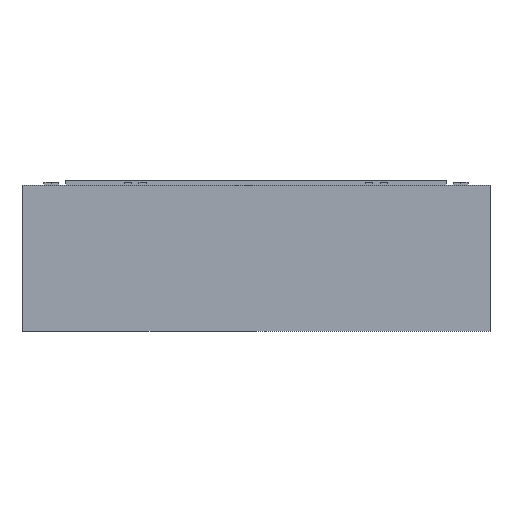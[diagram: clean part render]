
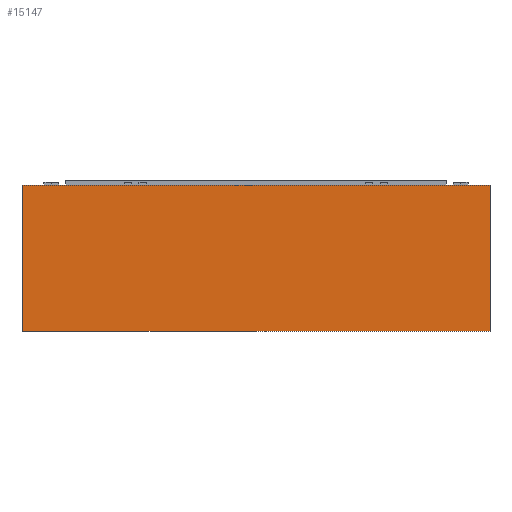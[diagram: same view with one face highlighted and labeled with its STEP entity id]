
A CAD part, left-side view. The second image highlights one B-rep face of the part: STEP entity #15147.
In plain terms, the highlighted planar face has unit normal (-1, 0, 0).
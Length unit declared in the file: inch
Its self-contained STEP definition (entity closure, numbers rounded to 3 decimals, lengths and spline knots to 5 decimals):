
#820=FACE_OUTER_BOUND('',#1630,.T.);
#1630=EDGE_LOOP('',(#12966,#12967,#12968,#12969));
#2142=LINE('',#20415,#4145);
#3633=LINE('',#23466,#5636);
#3634=LINE('',#23469,#5637);
#3635=LINE('',#23470,#5638);
#4145=VECTOR('',#16525,0.3937);
#5636=VECTOR('',#19384,0.3937);
#5637=VECTOR('',#19387,0.3937);
#5638=VECTOR('',#19388,0.3937);
#6094=VERTEX_POINT('',#20408);
#6097=VERTEX_POINT('',#20413);
#6973=VERTEX_POINT('',#23464);
#6974=VERTEX_POINT('',#23468);
#7483=EDGE_CURVE('',#6097,#6094,#2142,.T.);
#8974=EDGE_CURVE('',#6097,#6973,#3633,.T.);
#8975=EDGE_CURVE('',#6974,#6973,#3634,.T.);
#8976=EDGE_CURVE('',#6094,#6974,#3635,.T.);
#12966=ORIENTED_EDGE('',*,*,#7483,.F.);
#12967=ORIENTED_EDGE('',*,*,#8974,.T.);
#12968=ORIENTED_EDGE('',*,*,#8975,.F.);
#12969=ORIENTED_EDGE('',*,*,#8976,.F.);
#13720=PLANE('',#15907);
#15147=ADVANCED_FACE('',(#820),#13720,.T.);
#15907=AXIS2_PLACEMENT_3D('',#23467,#19385,#19386);
#16525=DIRECTION('',(0.,-1.,0.));
#19384=DIRECTION('',(0.,0.,-1.));
#19385=DIRECTION('center_axis',(-1.,0.,0.));
#19386=DIRECTION('ref_axis',(0.,1.,0.));
#19387=DIRECTION('',(0.,1.,0.));
#19388=DIRECTION('',(0.,0.,-1.));
#20408=CARTESIAN_POINT('',(0.,0.,0.));
#20413=CARTESIAN_POINT('',(0.,0.032,0.));
#20415=CARTESIAN_POINT('',(0.,0.032,0.));
#23464=CARTESIAN_POINT('',(0.,0.032,-0.01));
#23466=CARTESIAN_POINT('',(0.,0.032,0.));
#23467=CARTESIAN_POINT('Origin',(0.,0.,0.));
#23468=CARTESIAN_POINT('',(0.,0.,-0.01));
#23469=CARTESIAN_POINT('',(0.,0.032,-0.01));
#23470=CARTESIAN_POINT('',(0.,0.,0.));
